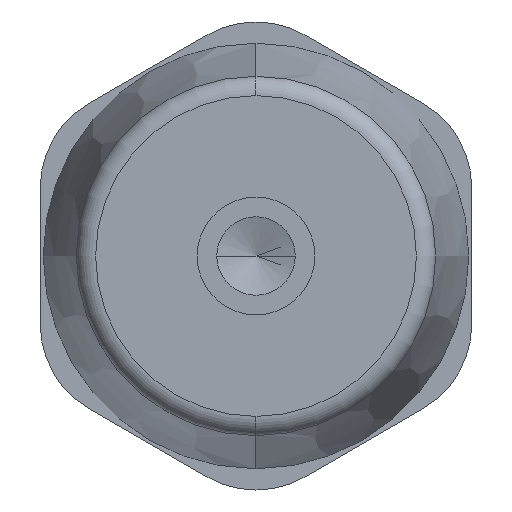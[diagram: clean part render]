
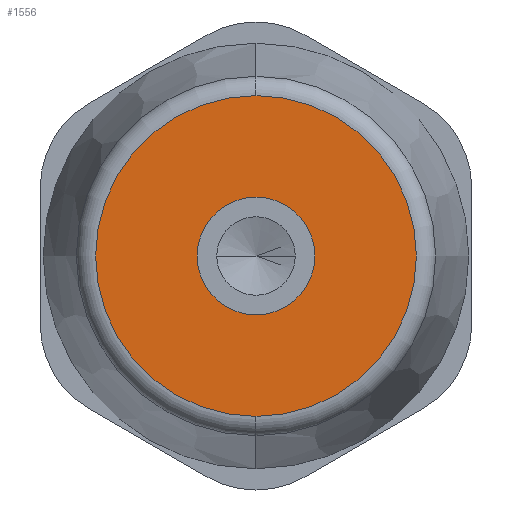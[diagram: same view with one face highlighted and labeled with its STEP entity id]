
A CAD part, front view. The second image highlights one B-rep face of the part: STEP entity #1556.
In plain terms, the highlighted planar face has unit normal (0, -1, 0).
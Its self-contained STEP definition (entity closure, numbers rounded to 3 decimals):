
#10 = DIRECTION ( 'NONE',  ( 0., 0., 1. ) ) ;
#33 = AXIS2_PLACEMENT_3D ( 'NONE', #554, #722, #1658 ) ;
#57 = EDGE_CURVE ( 'NONE', #684, #1130, #101, .T. ) ;
#100 = CARTESIAN_POINT ( 'NONE',  ( 3., 0., 0. ) ) ;
#101 = CIRCLE ( 'NONE', #546, 3. ) ;
#141 = CARTESIAN_POINT ( 'NONE',  ( 11., 0., -6.351 ) ) ;
#177 = ORIENTED_EDGE ( 'NONE', *, *, #419, .T. ) ;
#181 = AXIS2_PLACEMENT_3D ( 'NONE', #483, #1578, #620 ) ;
#275 = EDGE_LOOP ( 'NONE', ( #1879, #616 ) ) ;
#291 = CARTESIAN_POINT ( 'NONE',  ( 0., 0., 0. ) ) ;
#419 = EDGE_CURVE ( 'NONE', #579, #1048, #1287, .T. ) ;
#426 = AXIS2_PLACEMENT_3D ( 'NONE', #515, #1497, #10 ) ;
#442 = CARTESIAN_POINT ( 'NONE',  ( 0., 0., -8.176 ) ) ;
#483 = CARTESIAN_POINT ( 'NONE',  ( 0., 0., 0. ) ) ;
#515 = CARTESIAN_POINT ( 'NONE',  ( 0., 0., 0. ) ) ;
#546 = AXIS2_PLACEMENT_3D ( 'NONE', #291, #753, #787 ) ;
#554 = CARTESIAN_POINT ( 'NONE',  ( 0., 0., 0. ) ) ;
#579 = VERTEX_POINT ( 'NONE', #442 ) ;
#614 = EDGE_LOOP ( 'NONE', ( #2036, #177 ) ) ;
#616 = ORIENTED_EDGE ( 'NONE', *, *, #57, .T. ) ;
#620 = DIRECTION ( 'NONE',  ( -1., 0., 0. ) ) ;
#684 = VERTEX_POINT ( 'NONE', #100 ) ;
#722 = DIRECTION ( 'NONE',  ( 0., -1., 0. ) ) ;
#753 = DIRECTION ( 'NONE',  ( 0., 1., 0. ) ) ;
#787 = DIRECTION ( 'NONE',  ( -1., 0., 0. ) ) ;
#813 = DIRECTION ( 'NONE',  ( 0., 1., 0. ) ) ;
#851 = CARTESIAN_POINT ( 'NONE',  ( -3., 0., 0. ) ) ;
#953 = FACE_OUTER_BOUND ( 'NONE', #614, .T. ) ;
#999 = CARTESIAN_POINT ( 'NONE',  ( 0., 0., 8.176 ) ) ;
#1034 = CIRCLE ( 'NONE', #181, 3. ) ;
#1048 = VERTEX_POINT ( 'NONE', #999 ) ;
#1124 = EDGE_CURVE ( 'NONE', #1048, #579, #1176, .T. ) ;
#1130 = VERTEX_POINT ( 'NONE', #851 ) ;
#1176 = CIRCLE ( 'NONE', #426, 8.176 ) ;
#1270 = FACE_BOUND ( 'NONE', #275, .T. ) ;
#1287 = CIRCLE ( 'NONE', #33, 8.176 ) ;
#1497 = DIRECTION ( 'NONE',  ( 0., -1., 0. ) ) ;
#1556 = ADVANCED_FACE ( 'NONE', ( #1270, #953 ), #1599, .F. ) ;
#1571 = AXIS2_PLACEMENT_3D ( 'NONE', #141, #813, #1883 ) ;
#1578 = DIRECTION ( 'NONE',  ( 0., 1., 0. ) ) ;
#1599 = PLANE ( 'NONE',  #1571 ) ;
#1631 = EDGE_CURVE ( 'NONE', #1130, #684, #1034, .T. ) ;
#1658 = DIRECTION ( 'NONE',  ( 0., 0., 1. ) ) ;
#1879 = ORIENTED_EDGE ( 'NONE', *, *, #1631, .T. ) ;
#1883 = DIRECTION ( 'NONE',  ( 0., 0., 1. ) ) ;
#2036 = ORIENTED_EDGE ( 'NONE', *, *, #1124, .T. ) ;
